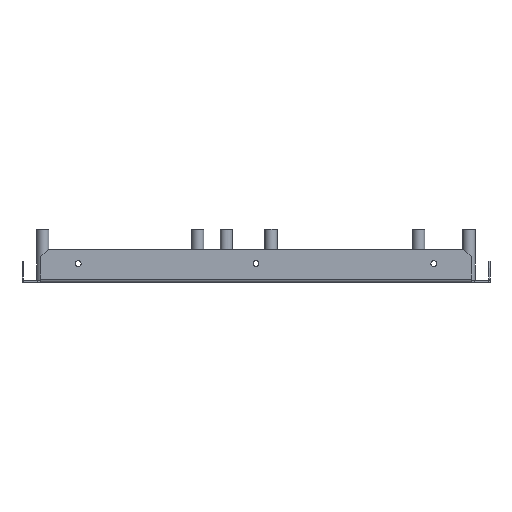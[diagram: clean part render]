
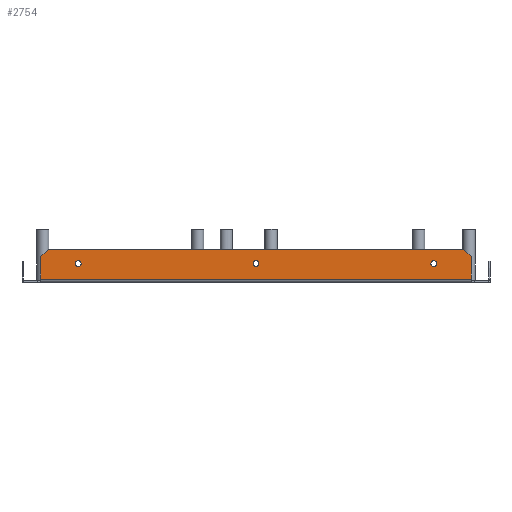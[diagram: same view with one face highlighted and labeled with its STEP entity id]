
A CAD part, front view. The second image highlights one B-rep face of the part: STEP entity #2754.
In plain terms, the highlighted planar face has unit normal (0, -1, 0).
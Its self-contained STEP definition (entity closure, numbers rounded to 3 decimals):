
#664=DIRECTION('',(1.,0.,0.));
#665=VECTOR('',#664,175.4);
#666=CARTESIAN_POINT('',(6.3,-4.702,-10.5));
#667=LINE('',#666,#665);
#753=DIRECTION('',(0.,0.,1.));
#754=VECTOR('',#753,9.5);
#755=CARTESIAN_POINT('',(184.7,-4.702,-23.));
#756=LINE('',#755,#754);
#781=DIRECTION('',(-1.,0.,0.));
#782=VECTOR('',#781,181.4);
#783=CARTESIAN_POINT('',(184.7,-4.702,-23.));
#784=LINE('',#783,#782);
#785=DIRECTION('',(-0.707,0.,-0.707));
#786=VECTOR('',#785,4.243);
#787=CARTESIAN_POINT('',(6.3,-4.702,-10.5));
#788=LINE('',#787,#786);
#789=DIRECTION('',(-0.707,0.,0.707));
#790=VECTOR('',#789,4.243);
#791=CARTESIAN_POINT('',(184.7,-4.702,-13.5));
#792=LINE('',#791,#790);
#793=CARTESIAN_POINT('',(169.,-4.702,-16.5));
#794=DIRECTION('',(0.,-1.,0.));
#795=DIRECTION('',(1.,0.,0.));
#796=AXIS2_PLACEMENT_3D('',#793,#794,#795);
#798=CARTESIAN_POINT('',(169.,-4.702,-16.5));
#799=DIRECTION('',(0.,-1.,0.));
#800=DIRECTION('',(-1.,0.,0.));
#801=AXIS2_PLACEMENT_3D('',#798,#799,#800);
#803=CARTESIAN_POINT('',(19.,-4.702,-16.5));
#804=DIRECTION('',(0.,-1.,0.));
#805=DIRECTION('',(1.,0.,0.));
#806=AXIS2_PLACEMENT_3D('',#803,#804,#805);
#808=CARTESIAN_POINT('',(19.,-4.702,-16.5));
#809=DIRECTION('',(0.,-1.,0.));
#810=DIRECTION('',(-1.,0.,0.));
#811=AXIS2_PLACEMENT_3D('',#808,#809,#810);
#813=CARTESIAN_POINT('',(94.,-4.702,-16.5));
#814=DIRECTION('',(0.,-1.,0.));
#815=DIRECTION('',(1.,0.,0.));
#816=AXIS2_PLACEMENT_3D('',#813,#814,#815);
#818=CARTESIAN_POINT('',(94.,-4.702,-16.5));
#819=DIRECTION('',(0.,-1.,0.));
#820=DIRECTION('',(-1.,0.,0.));
#821=AXIS2_PLACEMENT_3D('',#818,#819,#820);
#843=DIRECTION('',(0.,0.,-1.));
#844=VECTOR('',#843,9.5);
#845=CARTESIAN_POINT('',(3.3,-4.702,-13.5));
#846=LINE('',#845,#844);
#1517=CARTESIAN_POINT('',(184.7,-4.702,-13.5));
#1518=VERTEX_POINT('',#1517);
#1519=CARTESIAN_POINT('',(181.7,-4.702,-10.5));
#1520=VERTEX_POINT('',#1519);
#1561=CARTESIAN_POINT('',(6.3,-4.702,-10.5));
#1562=VERTEX_POINT('',#1561);
#1565=CARTESIAN_POINT('',(3.3,-4.702,-13.5));
#1566=VERTEX_POINT('',#1565);
#1666=CARTESIAN_POINT('',(3.3,-4.702,-23.));
#1668=VERTEX_POINT('',#1666);
#1669=CARTESIAN_POINT('',(184.7,-4.702,-23.));
#1670=VERTEX_POINT('',#1669);
#1705=CARTESIAN_POINT('',(170.25,-4.702,-16.5));
#1706=CARTESIAN_POINT('',(167.75,-4.702,-16.5));
#1707=VERTEX_POINT('',#1705);
#1708=VERTEX_POINT('',#1706);
#1709=CARTESIAN_POINT('',(20.25,-4.702,-16.5));
#1710=CARTESIAN_POINT('',(17.75,-4.702,-16.5));
#1711=VERTEX_POINT('',#1709);
#1712=VERTEX_POINT('',#1710);
#1881=CARTESIAN_POINT('',(95.25,-4.702,-16.5));
#1882=CARTESIAN_POINT('',(92.75,-4.702,-16.5));
#1883=VERTEX_POINT('',#1881);
#1884=VERTEX_POINT('',#1882);
#2720=CARTESIAN_POINT('',(192.2,-4.702,-24.5));
#2721=DIRECTION('',(0.,-1.,0.));
#2722=DIRECTION('',(-1.,0.,0.));
#2723=AXIS2_PLACEMENT_3D('',#2720,#2721,#2722);
#2724=PLANE('',#2723);
#2726=ORIENTED_EDGE('',*,*,#2725,.T.);
#2728=ORIENTED_EDGE('',*,*,#2727,.F.);
#2730=ORIENTED_EDGE('',*,*,#2729,.F.);
#2731=ORIENTED_EDGE('',*,*,#2563,.T.);
#2732=ORIENTED_EDGE('',*,*,#2594,.F.);
#2733=ORIENTED_EDGE('',*,*,#2661,.F.);
#2734=EDGE_LOOP('',(#2726,#2728,#2730,#2731,#2732,#2733));
#2735=FACE_OUTER_BOUND('',#2734,.F.);
#2737=ORIENTED_EDGE('',*,*,#2736,.T.);
#2739=ORIENTED_EDGE('',*,*,#2738,.T.);
#2740=EDGE_LOOP('',(#2737,#2739));
#2741=FACE_BOUND('',#2740,.F.);
#2743=ORIENTED_EDGE('',*,*,#2742,.T.);
#2745=ORIENTED_EDGE('',*,*,#2744,.T.);
#2746=EDGE_LOOP('',(#2743,#2745));
#2747=FACE_BOUND('',#2746,.F.);
#2749=ORIENTED_EDGE('',*,*,#2748,.T.);
#2751=ORIENTED_EDGE('',*,*,#2750,.T.);
#2752=EDGE_LOOP('',(#2749,#2751));
#2753=FACE_BOUND('',#2752,.F.);
#2754=ADVANCED_FACE('',(#2735,#2741,#2747,#2753),#2724,.T.);
#797=CIRCLE('',#796,1.25);
#802=CIRCLE('',#801,1.25);
#807=CIRCLE('',#806,1.25);
#812=CIRCLE('',#811,1.25);
#817=CIRCLE('',#816,1.25);
#822=CIRCLE('',#821,1.25);
#2563=EDGE_CURVE('',#1562,#1520,#667,.T.);
#2594=EDGE_CURVE('',#1518,#1520,#792,.T.);
#2661=EDGE_CURVE('',#1670,#1518,#756,.T.);
#2725=EDGE_CURVE('',#1670,#1668,#784,.T.);
#2727=EDGE_CURVE('',#1566,#1668,#846,.T.);
#2729=EDGE_CURVE('',#1562,#1566,#788,.T.);
#2736=EDGE_CURVE('',#1707,#1708,#797,.T.);
#2738=EDGE_CURVE('',#1708,#1707,#802,.T.);
#2742=EDGE_CURVE('',#1711,#1712,#807,.T.);
#2744=EDGE_CURVE('',#1712,#1711,#812,.T.);
#2748=EDGE_CURVE('',#1883,#1884,#817,.T.);
#2750=EDGE_CURVE('',#1884,#1883,#822,.T.);
